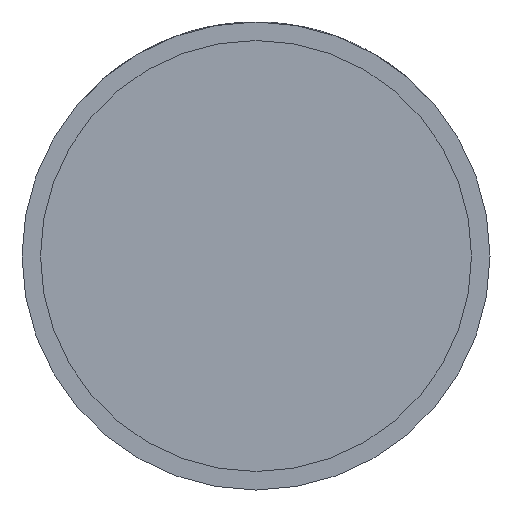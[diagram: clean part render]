
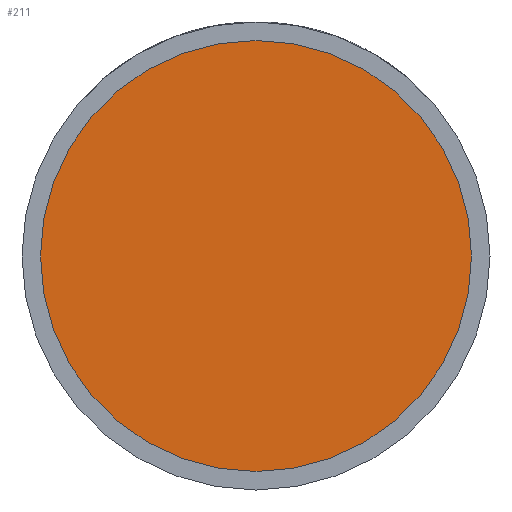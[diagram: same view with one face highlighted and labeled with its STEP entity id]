
A CAD part, front view. The second image highlights one B-rep face of the part: STEP entity #211.
In plain terms, the highlighted planar face has unit normal (0, -1, 0).
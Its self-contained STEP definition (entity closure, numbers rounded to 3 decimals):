
#6 = PLANE ( 'NONE',  #3159 ) ;
#45 = AXIS2_PLACEMENT_3D ( 'NONE', #1178, #3806, #3779 ) ;
#211 = ADVANCED_FACE ( 'NONE', ( #3199 ), #6, .T. ) ;
#280 = CARTESIAN_POINT ( 'NONE',  ( 17.5, -17., 0. ) ) ;
#332 = EDGE_CURVE ( 'NONE', #3926, #549, #3776, .T. ) ;
#549 = VERTEX_POINT ( 'NONE', #939 ) ;
#683 = DIRECTION ( 'NONE',  ( 1., 0., 0. ) ) ;
#939 = CARTESIAN_POINT ( 'NONE',  ( -17.5, -17., 0. ) ) ;
#1061 = AXIS2_PLACEMENT_3D ( 'NONE', #1897, #3532, #683 ) ;
#1178 = CARTESIAN_POINT ( 'NONE',  ( 0., -17., 0. ) ) ;
#1312 = DIRECTION ( 'NONE',  ( 1., 0., 0. ) ) ;
#1333 = DIRECTION ( 'NONE',  ( 0., -1., 0. ) ) ;
#1539 = ORIENTED_EDGE ( 'NONE', *, *, #332, .T. ) ;
#1897 = CARTESIAN_POINT ( 'NONE',  ( 0., -17., 0. ) ) ;
#3159 = AXIS2_PLACEMENT_3D ( 'NONE', #280, #1333, #1312 ) ;
#3199 = FACE_OUTER_BOUND ( 'NONE', #3291, .T. ) ;
#3291 = EDGE_LOOP ( 'NONE', ( #1539, #3970 ) ) ;
#3532 = DIRECTION ( 'NONE',  ( 0., -1., 0. ) ) ;
#3639 = CARTESIAN_POINT ( 'NONE',  ( 17.5, -17., 0. ) ) ;
#3776 = CIRCLE ( 'NONE', #1061, 17.5 ) ;
#3779 = DIRECTION ( 'NONE',  ( 1., 0., 0. ) ) ;
#3789 = EDGE_CURVE ( 'NONE', #549, #3926, #3947, .T. ) ;
#3806 = DIRECTION ( 'NONE',  ( 0., -1., 0. ) ) ;
#3926 = VERTEX_POINT ( 'NONE', #3639 ) ;
#3947 = CIRCLE ( 'NONE', #45, 17.5 ) ;
#3970 = ORIENTED_EDGE ( 'NONE', *, *, #3789, .T. ) ;
